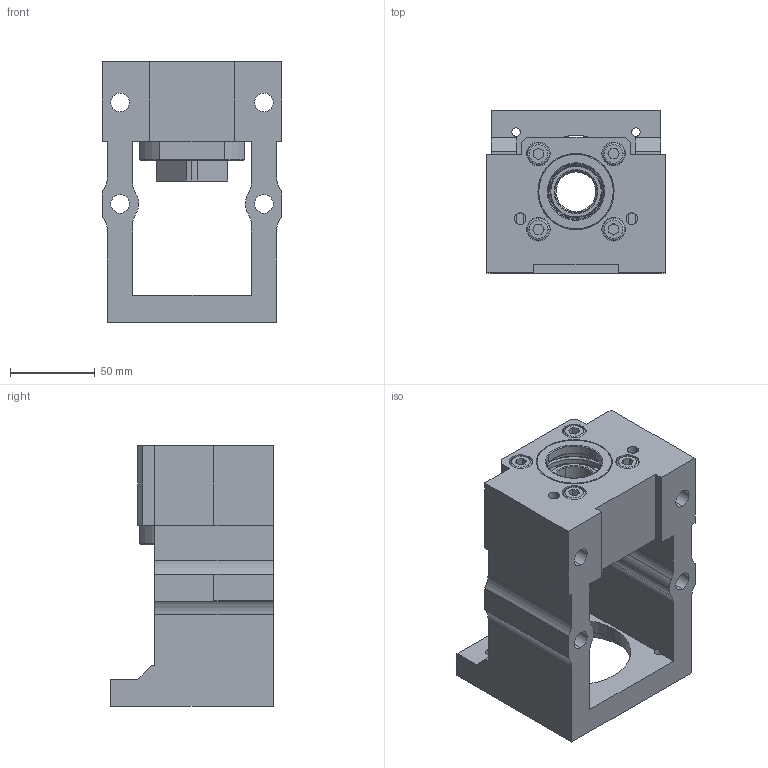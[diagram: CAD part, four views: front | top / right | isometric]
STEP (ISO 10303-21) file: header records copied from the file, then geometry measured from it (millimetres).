
FILE_DESCRIPTION (( 'STEP AP203' ), '1' );
FILE_NAME ('MBC25-X²Õ¦X¥ó.STEP', '2017-12-28T06:45:54', ( '' ), ( '' ), 'SwSTEP 2.0', 'SolidWorks 2017', '' );
FILE_SCHEMA (( 'CONFIG_CONTROL_DESIGN' ));
Length unit declared in the file: millimetre
Products named in the file (1): MBC25-X組合件
Bounding box: 106 x 96 x 154 mm (x, y, z)
Surface area: 118688.5 mm2 (no closed solid volume)
Topology: 0 solids, 32 shells, 285 faces, 809 edges, 537 vertices
Faces by surface type: plane 106, cylinder 90, cone 33, sphere 28, torus 26, bspline 2
Entity records: 9195 total; most frequent: CARTESIAN_POINT 1950, DIRECTION 1616, ORIENTED_EDGE 1313, EDGE_CURVE 739, AXIS2_PLACEMENT_3D 629, VERTEX_POINT 495, VECTOR 358, LINE 358
